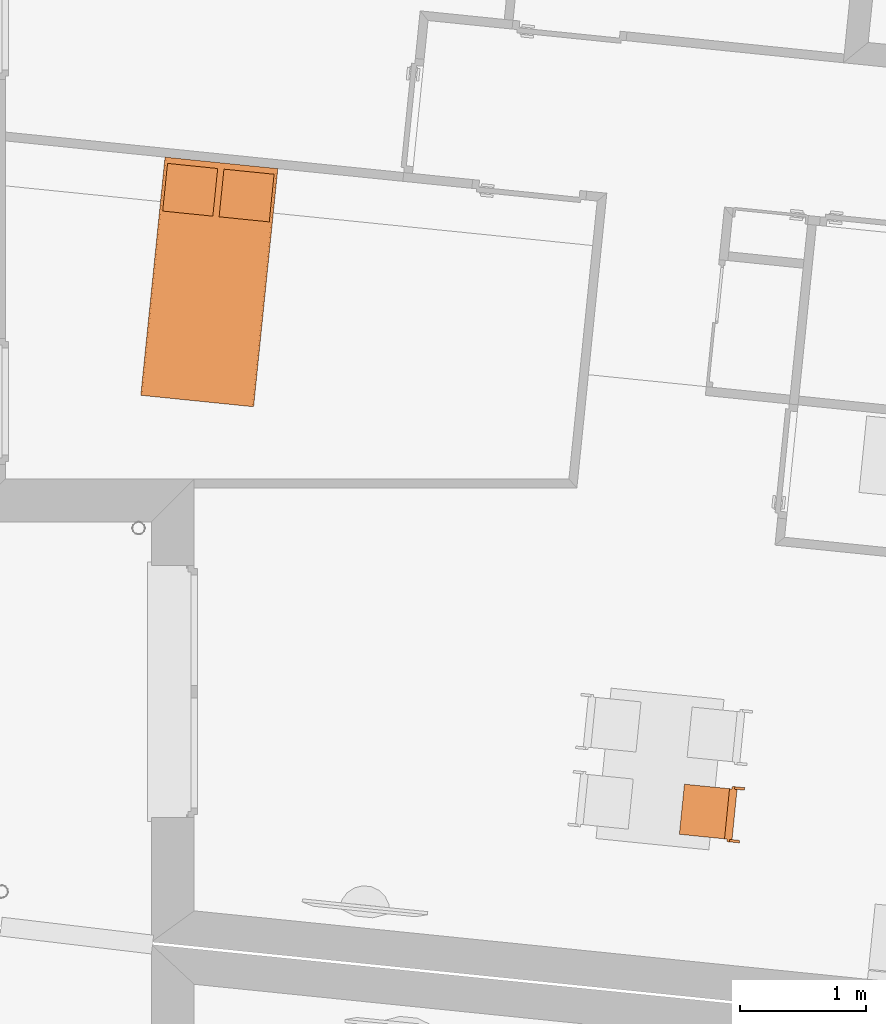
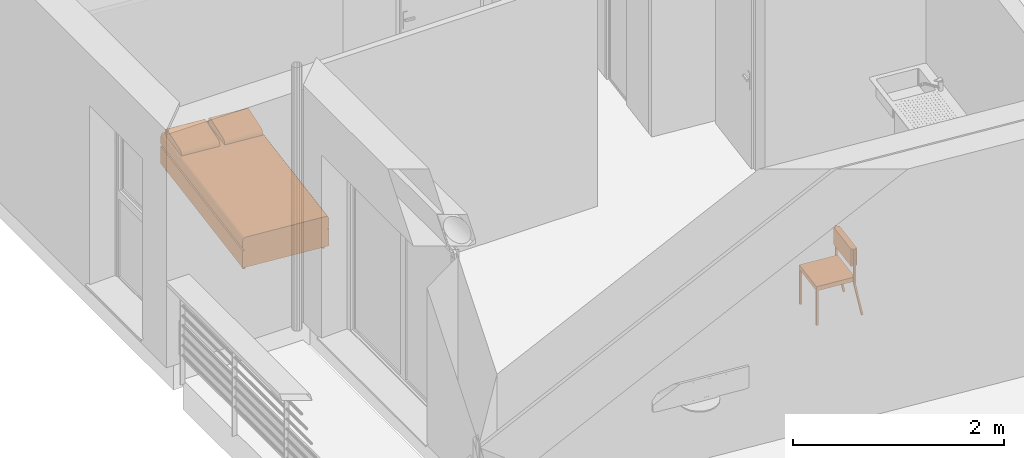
# One storey, part 159 of 171: 2 proxies.
"""IFC2X3 building model written with IfcOpenShell, lengths in millimetres."""

import ifcopenshell
import ifcopenshell.guid

model = None  # the IFC model being written
_history = None  # IfcOwnerHistory: only IFC2X3 demands one
_inside = {}  # id of a spatial element -> (the spatial element, [elements in it])
_under = {}  # id of a project, library or spatial element -> (it, [spatial elements below it])
_declared = {}  # id of a project -> (the project, [libraries it declares])
_typed = {}  # id of a type object -> (the type object, [elements of that type])
_made_of = {}  # id of a material, layer set ... -> (it, [elements and type objects made of it])


def new_model(schema):
    """Start an empty IFC model of exactly this schema.

    Asked for "IFC4X3", IfcOpenShell would pick the latest addendum, in which some entities
    have other attributes; the version numbers below select the first issue.
    IFC2X3 requires an IfcOwnerHistory on every rooted entity: one is made here for all.
    """
    global model, _history
    if schema == "IFC4X3":
        model = ifcopenshell.file(schema_version=(4, 3, 0, 0))
    else:
        model = ifcopenshell.file(schema=schema)
    _inside.clear()
    _under.clear()
    _declared.clear()
    _typed.clear()
    _made_of.clear()
    _history = None
    if model.schema == "IFC2X3":
        org = make("IfcOrganization", Name="unknown")
        user = make(
            "IfcPersonAndOrganization",
            ThePerson=make("IfcPerson", FamilyName="unknown"),
            TheOrganization=org,
        )
        app = make(
            "IfcApplication",
            ApplicationDeveloper=org,
            Version="unknown",
            ApplicationFullName="unknown",
            ApplicationIdentifier="unknown",
        )
        _history = make(
            "IfcOwnerHistory",
            OwningUser=user,
            OwningApplication=app,
            ChangeAction="ADDED",
            CreationDate=0,
        )
    return model


def make(cls, **values):
    """One entity of the class cls with the attributes given. An attribute that is None is left unset."""
    return model.create_entity(
        cls, **{name: value for name, value in values.items() if value is not None}
    )


def entity(cls, *values):
    """Any entity or typed value of the class cls, its attributes in the order of the schema. None: left unset."""
    e = model.create_entity(cls)
    for i, value in enumerate(values):
        if value is not None:
            e[i] = value
    return e


def rooted(cls, **values):
    """An entity with a GlobalId (a new one), such as an element, a storey or a relation."""
    return make(cls, GlobalId=ifcopenshell.guid.new(), OwnerHistory=_history, **values)


def si_unit(unit_type, name, prefix=None):
    """IfcSIUnit, for example si_unit("LENGTHUNIT", "METRE", prefix="MILLI")."""
    return make("IfcSIUnit", UnitType=unit_type, Prefix=prefix, Name=name)


def converted_unit(unit_type, name, factor, base, dimensions=None, offset=None):
    """IfcConversionBasedUnit, such as the inch: factor (a typed value) times the base unit."""
    return make(
        "IfcConversionBasedUnit"
        if offset is None
        else "IfcConversionBasedUnitWithOffset",
        ConversionOffset=offset,
        Dimensions=None
        if dimensions is None
        else entity("IfcDimensionalExponents", *dimensions),
        UnitType=unit_type,
        Name=name,
        ConversionFactor=make(
            "IfcMeasureWithUnit", ValueComponent=factor, UnitComponent=base
        ),
    )


def derived_unit(unit_type, elements):
    """IfcDerivedUnit: a product of units, each with its exponent."""
    return make(
        "IfcDerivedUnit",
        Elements=[
            make("IfcDerivedUnitElement", Unit=unit, Exponent=power)
            for unit, power in elements
        ],
        UnitType=unit_type,
    )


def money_unit(currency):
    """IfcMonetaryUnit."""
    return make("IfcMonetaryUnit", Currency=currency)


def assignment(units):
    """IfcUnitAssignment: the units of a project."""
    return None if units is None else make("IfcUnitAssignment", Units=units)


def point(xyz):
    """IfcCartesianPoint."""
    return None if xyz is None else make("IfcCartesianPoint", Coordinates=xyz)


def direction(xyz):
    """IfcDirection."""
    return None if xyz is None else make("IfcDirection", DirectionRatios=xyz)


def frame(location, z_axis=None, x_axis=None):
    """IfcAxis2Placement3D, a coordinate frame: its origin and axes. An axis left out is left unset."""
    return make(
        "IfcAxis2Placement3D",
        Location=point(location),
        Axis=direction(z_axis),
        RefDirection=direction(x_axis),
    )


def origin_with_axes():
    """The frame at (0, 0, 0) with the z axis (0, 0, 1) and the x axis (1, 0, 0) written out."""
    return frame((0.0, 0.0, 0.0), z_axis=(0.0, 0.0, 1.0), x_axis=(1.0, 0.0, 0.0))


def place(relative_to, where):
    """IfcLocalPlacement: puts the frame where relative to a parent placement (None: the world)."""
    return make(
        "IfcLocalPlacement", PlacementRelTo=relative_to, RelativePlacement=where
    )


def context(
    kind, dimensions, precision=None, world=None, true_north=None, identifier=None
):
    """IfcGeometricRepresentationContext, for example the 3D "Model" context."""
    return make(
        "IfcGeometricRepresentationContext",
        ContextIdentifier=identifier,
        ContextType=kind,
        CoordinateSpaceDimension=dimensions,
        Precision=precision,
        WorldCoordinateSystem=world,
        TrueNorth=true_north,
    )


def subcontext(parent, identifier, kind, view, scale=None):
    """IfcGeometricRepresentationSubContext, for example "Body" below "Model"."""
    return make(
        "IfcGeometricRepresentationSubContext",
        ContextIdentifier=identifier,
        ContextType=kind,
        ParentContext=parent,
        TargetScale=scale,
        TargetView=view,
    )


def project(units=None, contexts=None):
    """IfcProject with its units and contexts."""
    return rooted(
        "IfcProject",
        Name="project",
        RepresentationContexts=contexts,
        UnitsInContext=assignment(units),
    )


def spatial(cls, under=None, at=None, **own):
    """A site, building, storey or space (cls), placed at a placement, below another one or the project."""
    s = rooted(cls, ObjectPlacement=at, **own)
    if under is not None:
        _under.setdefault(under.id(), (under, []))[1].append(s)
    return s


def faces_of(points, faces, orient=None, outer=None):
    """IfcFace entities. A face is a list of loops; a loop is a list of indices into points, from 0.

    orient and outer hold one flag for each loop. By default every Orientation is true, the
    first loop of a face is its IfcFaceOuterBound and the others are IfcFaceBound.
    """
    made = []
    for i, loops in enumerate(faces):
        bounds = []
        for j, loop in enumerate(loops):
            is_outer = j == 0 if outer is None else outer[i][j]
            bounds.append(
                make(
                    "IfcFaceOuterBound" if is_outer else "IfcFaceBound",
                    Bound=make("IfcPolyLoop", Polygon=[points[k] for k in loop]),
                    Orientation=True if orient is None else orient[i][j],
                )
            )
        made.append(make("IfcFace", Bounds=bounds))
    return made


def open_shell(faces, orient=None, outer=None):
    """The faces of one IfcOpenShell. surface_model builds it on its shared points."""
    return ("IfcOpenShell", faces, orient, outer)


def faceted_brep(points, faces, orient=None, outer=None, voids=None):
    """IfcFacetedBrep: a solid bounded by flat faces; with voids (closed shells), ...WithVoids."""
    shared = [point(p) for p in points]
    hull = make("IfcClosedShell", CfsFaces=faces_of(shared, faces, orient, outer))
    if voids is None:
        return make("IfcFacetedBrep", Outer=hull)
    return make(
        "IfcFacetedBrepWithVoids",
        Outer=hull,
        Voids=[
            make(cls, CfsFaces=faces_of(shared, fs, o, b)) for cls, fs, o, b in voids
        ],
    )


def surface_model(cls, points, shells):
    """IfcFaceBasedSurfaceModel or IfcShellBasedSurfaceModel (cls): surfaces that need not close."""
    shared = [point(p) for p in points]
    made = [make(c, CfsFaces=faces_of(shared, fs, o, b)) for c, fs, o, b in shells]
    if cls == "IfcFaceBasedSurfaceModel":
        return make(cls, FbsmFaces=made)
    return make(cls, SbsmBoundary=made)


def shape(context_of_items, identifier, shape_type, items):
    """IfcShapeRepresentation: the items that make up one representation, for example the "Body"."""
    return make(
        "IfcShapeRepresentation",
        ContextOfItems=context_of_items,
        RepresentationIdentifier=identifier,
        RepresentationType=shape_type,
        Items=items,
    )


def source(mapping_origin, context_of_items, identifier, shape_type, items):
    """IfcRepresentationMap: a shape defined once, which mapped items show again and again."""
    return make(
        "IfcRepresentationMap",
        MappingOrigin=mapping_origin,
        MappedRepresentation=shape(context_of_items, identifier, shape_type, items),
    )


def transform(
    local_origin,
    x_axis=None,
    y_axis=None,
    z_axis=None,
    scale=None,
    scale2=None,
    scale3=None,
    uniform=True,
):
    """IfcCartesianTransformationOperator3D, or its non-uniform kind. x_axis, y_axis, z_axis: its Axis1, 2, 3."""
    if uniform:
        return make(
            "IfcCartesianTransformationOperator3D",
            Axis1=direction(x_axis),
            Axis2=direction(y_axis),
            LocalOrigin=point(local_origin),
            Scale=scale,
            Axis3=direction(z_axis),
        )
    return make(
        "IfcCartesianTransformationOperator3DnonUniform",
        Axis1=direction(x_axis),
        Axis2=direction(y_axis),
        LocalOrigin=point(local_origin),
        Scale=scale,
        Axis3=direction(z_axis),
        Scale2=scale2,
        Scale3=scale3,
    )


def mapped(mapping_source, mapping_target):
    """IfcMappedItem: shows the shape of a source again, moved by a transform."""
    return make(
        "IfcMappedItem", MappingSource=mapping_source, MappingTarget=mapping_target
    )


def made_of(thing, what):
    """Note that an element or type object is made of a material, layer set ...; save() writes the relation."""
    if what is not None:
        _made_of.setdefault(what.id(), (what, []))[1].append(thing)
    return thing


def type_object(cls, material=None, **own):
    """A type object (cls), such as IfcWallType, which elements share."""
    return made_of(rooted(cls, **own), material)


def element(
    cls,
    number,
    at=None,
    inside=None,
    cuts=None,
    type_object=None,
    material=None,
    context=None,
    identifier="Body",
    shape_type=None,
    held_by="IfcProductDefinitionShape",
    body=None,
    shapes=None,
    **own,
):
    """One element of the class cls, such as IfcWall. Its Tag is "e" and its number.

    at: its placement. inside: the storey or other place that contains it. cuts: it is an
    opening in that element (IfcRelVoidsElement). A single representation is given by context,
    identifier, shape_type and body (its items); several are given by shapes. held_by: the class
    of the entity that holds the representations. save() writes the other relations.
    """
    e = rooted(cls, Tag="e%d" % number, ObjectPlacement=at, **own)
    if body is not None:
        shapes = [shape(context, identifier, shape_type, body)]
    if shapes is not None:
        e.Representation = make(held_by, Representations=shapes)
    if inside is not None:
        _inside.setdefault(inside.id(), (inside, []))[1].append(e)
    if cuts is not None:
        rooted(
            "IfcRelVoidsElement", RelatingBuildingElement=cuts, RelatedOpeningElement=e
        )
    if type_object is not None:
        _typed.setdefault(type_object.id(), (type_object, []))[1].append(e)
    return made_of(e, material)


def aggregate(whole, parts):
    """IfcRelAggregates: a whole, such as a stair, and the parts it consists of."""
    return rooted("IfcRelAggregates", RelatingObject=whole, RelatedObjects=parts)


def save(model, path):
    """Write the relations noted so far, then the file.

    IfcRelAggregates (storeys below a building ...), IfcRelContainedInSpatialStructure (elements
    in a storey), IfcRelDefinesByType, IfcRelAssociatesMaterial and IfcRelDeclares: one each for
    every whole, place, type object, material and project.
    """
    for whole, parts in _under.values():
        aggregate(whole, parts)
    for where, things in _inside.values():
        rooted(
            "IfcRelContainedInSpatialStructure",
            RelatedElements=things,
            RelatingStructure=where,
        )
    for kind, things in _typed.values():
        rooted("IfcRelDefinesByType", RelatedObjects=things, RelatingType=kind)
    for what, things in _made_of.values():
        rooted("IfcRelAssociatesMaterial", RelatedObjects=things, RelatingMaterial=what)
    for by, libraries in _declared.values():
        rooted("IfcRelDeclares", RelatingContext=by, RelatedDefinitions=libraries)
    model.write(path)


model = new_model("IFC2X3")

# Units and contexts
model_context = context("Model", 3, precision=0.01, world=origin_with_axes(), true_north=direction((0.0, 1.0)))
body_context = subcontext(model_context, "Body", "Model", "MODEL_VIEW")
ifc_project = project(units=[si_unit("LENGTHUNIT", "METRE", prefix="MILLI"), si_unit("AREAUNIT", "SQUARE_METRE"), si_unit("VOLUMEUNIT", "CUBIC_METRE"), converted_unit("PLANEANGLEUNIT", "DEGREE", entity("IfcPlaneAngleMeasure", 0.0174532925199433), si_unit("PLANEANGLEUNIT", "RADIAN"), dimensions=[0, 0, 0, 0, 0, 0, 0]), money_unit("USD"), converted_unit("TIMEUNIT", "Year", entity("IfcTimeMeasure", 31557600.0), si_unit("TIMEUNIT", "SECOND"), dimensions=[0, 0, 1, 0, 0, 0, 0]), si_unit("MASSUNIT", "GRAM", prefix="KILO"), si_unit("THERMODYNAMICTEMPERATUREUNIT", "DEGREE_CELSIUS"), si_unit("LUMINOUSINTENSITYUNIT", "LUMEN"), si_unit("ENERGYUNIT", "JOULE", prefix="MEGA"), derived_unit("THERMALCONDUCTANCEUNIT", [(si_unit("POWERUNIT", "WATT"), 1), (si_unit("LENGTHUNIT", "METRE"), -1), (si_unit("THERMODYNAMICTEMPERATUREUNIT", "KELVIN"), -1)]), derived_unit("SPECIFICHEATCAPACITYUNIT", [(si_unit("ENERGYUNIT", "JOULE"), 1), (si_unit("MASSUNIT", "GRAM", prefix="KILO"), -1), (si_unit("THERMODYNAMICTEMPERATUREUNIT", "KELVIN"), -1)]), derived_unit("MASSDENSITYUNIT", [(si_unit("MASSUNIT", "GRAM", prefix="KILO"), 1), (si_unit("VOLUMEUNIT", "CUBIC_METRE"), -1)])], contexts=[model_context])

# Site, building, storey
site_placement = place(None, origin_with_axes())
site = spatial("IfcSite", under=ifc_project, at=site_placement, Name="Site", CompositionType="ELEMENT")
building_placement = place(site_placement, origin_with_axes())
building = spatial("IfcBuilding", under=site, at=building_placement, Name="Bâtiment", CompositionType="ELEMENT")
storey_placement = place(building_placement, frame((0.0, 0.0, 3000.0), z_axis=(0.0, 0.0, 1.0), x_axis=(1.0, 0.0, 0.0)))
storey = spatial("IfcBuildingStorey", under=building, at=storey_placement, Name="rdc", CompositionType="ELEMENT", Elevation=3000.0)

# Proxies
building_element_proxy_type = type_object("IfcBuildingElementProxyType", PredefinedType="NOTDEFINED")
shared_shape_1 = source(origin_with_axes(), body_context, "Body", "Brep", [
    faceted_brep([(-39.99999978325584, 0.0, 0.0), (-39.99999978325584, 19.99999936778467, 0.0), (-19.99999989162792, 19.99999936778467, 0.0), (-19.99999989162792, 0.0, 0.0), (-39.99999978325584, 0.0, 400.0), (-39.99999978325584, 19.99999936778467, 400.0), (-19.99999989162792, 19.99999936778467, 400.0), (-19.99999989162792, 0.0, 400.0)], [[[0, 1, 2, 3]], [[0, 4, 5, 1]], [[1, 5, 6, 2]], [[2, 6, 7, 3]], [[3, 7, 4, 0]], [[7, 6, 5, 4]]]),
    faceted_brep([(-419.9999977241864, 0.0, 0.0), (-419.9999977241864, 19.99999936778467, 0.0), (-399.9999978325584, 19.99999936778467, 0.0), (-399.9999978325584, 0.0, 0.0), (-419.9999977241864, 0.0, 400.0), (-419.9999977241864, 19.99999936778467, 400.0), (-399.9999978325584, 19.99999936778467, 400.0), (-399.9999978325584, 0.0, 400.0)], [[[0, 1, 2, 3]], [[0, 4, 5, 1]], [[1, 5, 6, 2]], [[2, 6, 7, 3]], [[3, 7, 4, 0]], [[7, 6, 5, 4]]]),
    faceted_brep([(-399.9999978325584, 0.0, 400.0000000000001), (-399.9999978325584, 19.99999936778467, 400.0000000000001), (-39.99999978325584, 19.99999936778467, 400.0000000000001), (-39.99999978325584, 0.0, 400.0000000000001), (-399.9999978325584, 0.0, 420.0000000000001), (-399.9999978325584, 19.99999936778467, 420.0000000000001), (-39.99999978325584, 19.99999936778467, 420.0000000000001), (-39.99999978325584, 0.0, 420.0000000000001)], [[[0, 1, 2, 3]], [[0, 4, 5, 1]], [[1, 5, 6, 2]], [[2, 6, 7, 3]], [[3, 7, 4, 0]], [[7, 6, 5, 4]]]),
    faceted_brep([(-39.99999978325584, 19.99999936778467, 400.0000000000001), (-39.99999978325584, 379.9999879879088, 400.0000000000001), (-19.99999989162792, 379.9999879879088, 400.0000000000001), (-19.99999989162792, 19.99999936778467, 400.0000000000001), (-39.99999978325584, 19.99999936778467, 420.0000000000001), (-39.99999978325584, 379.9999879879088, 420.0000000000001), (-19.99999989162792, 379.9999879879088, 420.0000000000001), (-19.99999989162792, 19.99999936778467, 420.0000000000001)], [[[0, 1, 2, 3]], [[0, 4, 5, 1]], [[1, 5, 6, 2]], [[2, 6, 7, 3]], [[3, 7, 4, 0]], [[7, 6, 5, 4]]]),
    faceted_brep([(-419.9999977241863, 379.9999879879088, 400.0000000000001), (-419.9999977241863, 399.9999873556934, 400.0000000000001), (-19.99999989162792, 399.9999873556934, 400.0000000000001), (-19.99999989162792, 379.9999879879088, 400.0000000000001), (-419.9999977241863, 379.9999879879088, 420.0000000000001), (-419.9999977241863, 399.9999873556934, 420.0000000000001), (-19.99999989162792, 399.9999873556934, 420.0000000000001), (-19.99999989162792, 379.9999879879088, 420.0000000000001)], [[[0, 1, 2, 3]], [[0, 4, 5, 1]], [[1, 5, 6, 2]], [[2, 6, 7, 3]], [[3, 7, 4, 0]], [[7, 6, 5, 4]]]),
    faceted_brep([(-419.9999977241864, 19.99999936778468, 400.0000000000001), (-419.9999977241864, 379.9999879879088, 400.0000000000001), (-399.9999978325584, 379.9999879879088, 400.0000000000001), (-399.9999978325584, 19.99999936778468, 400.0000000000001), (-419.9999977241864, 19.99999936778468, 420.0000000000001), (-419.9999977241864, 379.9999879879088, 420.0000000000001), (-399.9999978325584, 379.9999879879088, 420.0000000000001), (-399.9999978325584, 19.99999936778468, 420.0000000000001)], [[[0, 1, 2, 3]], [[0, 4, 5, 1]], [[1, 5, 6, 2]], [[2, 6, 7, 3]], [[3, 7, 4, 0]], [[7, 6, 5, 4]]]),
    faceted_brep([(-419.9999977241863, 0.0, 400.0), (-419.9999977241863, 399.9999873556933, 400.0), (-19.99999989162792, 399.9999873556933, 400.0), (-19.99999989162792, 0.0, 400.0), (-419.9999977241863, 0.0, 450.0), (-419.9999977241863, 399.9999873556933, 450.0), (-19.99999989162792, 399.9999873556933, 450.0), (-19.99999989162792, 0.0, 450.0)], [[[0, 1, 2, 3]], [[0, 4, 5, 1]], [[1, 5, 6, 2]], [[2, 6, 7, 3]], [[3, 7, 4, 0]], [[7, 6, 5, 4]]]),
    faceted_brep([(-19.99999989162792, 379.9999879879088, 380.0), (-19.99999989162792, 399.9999873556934, 380.0), (0.0, 399.9999873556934, 380.0), (0.0, 379.9999879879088, 380.0), (-19.99999989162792, 379.9999879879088, 780.0), (-19.99999989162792, 399.9999873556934, 780.0), (0.0, 399.9999873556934, 780.0), (0.0, 379.9999879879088, 780.0)], [[[0, 1, 2, 3]], [[0, 4, 5, 1]], [[1, 5, 6, 2]], [[2, 6, 7, 3]], [[3, 7, 4, 0]], [[7, 6, 5, 4]]]),
    faceted_brep([(-439.9999976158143, 379.9999879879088, 380.0), (-439.9999976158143, 399.9999873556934, 380.0), (-419.9999977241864, 399.9999873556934, 380.0), (-419.9999977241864, 379.9999879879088, 380.0), (-439.9999976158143, 379.9999879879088, 780.0), (-439.9999976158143, 399.9999873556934, 780.0), (-419.9999977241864, 399.9999873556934, 780.0), (-419.9999977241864, 379.9999879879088, 780.0)], [[[0, 1, 2, 3]], [[0, 4, 5, 1]], [[1, 5, 6, 2]], [[2, 6, 7, 3]], [[3, 7, 4, 0]], [[7, 6, 5, 4]]]),
    faceted_brep([(-419.9999977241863, 359.999988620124, 580.0000000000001), (-419.9999977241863, 419.9999867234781, 580.0000000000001), (-19.99999989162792, 419.9999867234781, 580.0000000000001), (-19.99999989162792, 359.999988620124, 580.0000000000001), (-419.9999977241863, 359.999988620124, 780.0), (-419.9999977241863, 419.9999867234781, 780.0), (-19.99999989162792, 419.9999867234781, 780.0), (-19.99999989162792, 359.999988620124, 780.0)], [[[0, 1, 2, 3]], [[0, 4, 5, 1]], [[1, 5, 6, 2]], [[2, 6, 7, 3]], [[3, 7, 4, 0]], [[7, 6, 5, 4]]]),
    faceted_brep([(-19.99999989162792, 459.9999854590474, 0.0), (-19.99999989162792, 479.5709559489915, 4.120326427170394), (0.0, 479.5709559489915, 4.120326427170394), (0.0, 459.9999854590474, 0.0), (-19.99999989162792, 379.997669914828, 379.999760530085), (-19.99999989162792, 399.5686404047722, 384.1200869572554), (0.0, 399.5686404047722, 384.1200869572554), (0.0, 379.997669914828, 379.999760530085)], [[[0, 1, 2, 3]], [[0, 4, 5, 1]], [[1, 5, 6, 2]], [[2, 6, 7, 3]], [[3, 7, 4, 0]], [[7, 6, 5, 4]]]),
    faceted_brep([(-439.9999976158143, 459.9999854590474, 0.0), (-439.9999976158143, 479.5709559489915, 4.120326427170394), (-419.9999977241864, 479.5709559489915, 4.120326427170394), (-419.9999977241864, 459.9999854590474, 0.0), (-439.9999976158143, 379.997669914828, 379.999760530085), (-439.9999976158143, 399.5686404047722, 384.1200869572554), (-419.9999977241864, 399.5686404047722, 384.1200869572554), (-419.9999977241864, 379.997669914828, 379.999760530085)], [[[0, 1, 2, 3]], [[0, 4, 5, 1]], [[1, 5, 6, 2]], [[2, 6, 7, 3]], [[3, 7, 4, 0]], [[7, 6, 5, 4]]]),
])
proxy_1_placement = place(storey_placement, frame((2222322.924363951, -620007.0921225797, 0.0), z_axis=(0.0, 0.0, 1.0), x_axis=(-0.1000048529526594, -0.9949869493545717, 0.0)))
element("IfcBuildingElementProxy", 1, at=proxy_1_placement, inside=storey, type_object=building_element_proxy_type, Name="Obj.-027", context=body_context, shape_type="MappedRepresentation", body=[
    mapped(shared_shape_1, transform((0.0, 0.0, 0.0))),
])
shared_shape_2 = source(origin_with_axes(), body_context, "Body", "SurfaceModel", [
    faceted_brep([(-400.0, -95.0, 0.0), (-425.0000000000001, -95.0, 0.0), (-425.0000000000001, -47.5, 0.0), (-400.0, -47.5, 0.0), (-400.0, -95.0, 50.0), (-425.0000000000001, -95.0, 50.0), (-425.0000000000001, -47.5, 50.0), (-400.0, -47.5, 50.0)], [[[0, 1, 2, 3]], [[1, 0, 4, 5]], [[2, 1, 5, 6]], [[3, 2, 6, 7]], [[0, 3, 7, 4]], [[5, 4, 7, 6]]]),
    faceted_brep([(-400.0, -1852.5, 0.0), (-425.0000000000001, -1852.5, 0.0), (-425.0000000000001, -1805.0, 0.0), (-400.0, -1805.0, 0.0), (-400.0, -1852.5, 50.0), (-425.0000000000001, -1852.5, 50.0), (-425.0000000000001, -1805.0, 50.0), (-400.0, -1805.0, 50.0)], [[[0, 1, 2, 3]], [[1, 0, 4, 5]], [[2, 1, 5, 6]], [[3, 2, 6, 7]], [[0, 3, 7, 4]], [[5, 4, 7, 6]]]),
    faceted_brep([(425.0000000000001, -1852.5, 0.0), (400.0, -1852.5, 0.0), (400.0, -1805.0, 0.0), (425.0000000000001, -1805.0, 0.0), (425.0000000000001, -1852.5, 50.0), (400.0, -1852.5, 50.0), (400.0, -1805.0, 50.0), (425.0000000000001, -1805.0, 50.0)], [[[0, 1, 2, 3]], [[1, 0, 4, 5]], [[2, 1, 5, 6]], [[3, 2, 6, 7]], [[0, 3, 7, 4]], [[5, 4, 7, 6]]]),
    faceted_brep([(425.0000000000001, -94.99999999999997, 0.0), (400.0, -94.99999999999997, 0.0), (400.0, -47.49999999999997, 0.0), (425.0000000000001, -47.49999999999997, 0.0), (425.0000000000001, -94.99999999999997, 50.0), (400.0, -94.99999999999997, 50.0), (400.0, -47.49999999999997, 50.0), (425.0000000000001, -47.49999999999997, 50.0)], [[[0, 1, 2, 3]], [[1, 0, 4, 5]], [[2, 1, 5, 6]], [[3, 2, 6, 7]], [[0, 3, 7, 4]], [[5, 4, 7, 6]]]),
    faceted_brep([(-450.0, 0.0, 50.0), (450.0, 0.0, 50.0), (450.0, -1900.0, 50.00000000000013), (-450.0, -1900.0, 50.00000000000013), (-450.0, 0.0, 250.0), (450.0, 0.0, 250.0), (450.0, -1900.0, 250.0000000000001), (-450.0, -1900.0, 250.0000000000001)], [[[0, 1, 2, 3]], [[0, 4, 5, 1]], [[1, 5, 6, 2]], [[3, 2, 6, 7]], [[4, 0, 3, 7]], [[5, 4, 7, 6]]]),
    surface_model("IfcShellBasedSurfaceModel", [(425.0000000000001, 0.0, 250.0), (429.3412044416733, 0.0, 250.7596123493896), (429.3412044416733, -1900.0, 250.7596123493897), (425.0000000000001, -1900.0, 250.0000000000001), (-425.0000000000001, 0.0, 250.0), (-429.3412044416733, 0.0, 250.7596123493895), (-433.5505035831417, 0.0, 253.0153689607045), (-437.5, 0.0, 256.698729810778), (-441.0696902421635, 0.0, 261.6977778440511), (-444.1511110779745, 0.0, 267.860619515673), (-446.650635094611, 0.0, 275.0), (-448.4923155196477, 0.0, 282.8989928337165), (-449.6201938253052, 0.0, 291.3175911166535), (-450.0, 0.0, 300.0000000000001), (-450.0000000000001, 0.0, 350.0), (-449.6201938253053, 0.0, 358.6824088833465), (-448.4923155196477, 0.0, 367.1010071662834), (-446.650635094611, 0.0, 375.0), (-444.1511110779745, 0.0, 382.139380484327), (-441.0696902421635, 0.0, 388.3022221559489), (-437.5000000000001, 0.0, 393.301270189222), (-433.5505035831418, 0.0, 396.9846310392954), (-429.3412044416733, 0.0, 399.2403876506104), (-425.0000000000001, 0.0, 400.0), (425.0, 0.0, 400.0000000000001), (429.3412044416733, 0.0, 399.2403876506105), (433.5505035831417, 0.0, 396.9846310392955), (437.5, 0.0, 393.301270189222), (441.0696902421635, 0.0, 388.3022221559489), (444.1511110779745, 0.0, 382.139380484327), (446.6506350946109, 0.0, 375.0000000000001), (448.4923155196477, 0.0, 367.1010071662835), (449.6201938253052, 0.0, 358.6824088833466), (450.0, 0.0, 350.0000000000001), (450.0, 0.0, 300.0000000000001), (449.6201938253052, 0.0, 291.3175911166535), (448.4923155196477, 0.0, 282.8989928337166), (446.650635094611, 0.0, 275.0), (444.1511110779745, 0.0, 267.8606195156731), (441.0696902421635, 0.0, 261.6977778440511), (437.5000000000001, 0.0, 256.698729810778), (433.5505035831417, 0.0, 253.0153689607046), (433.5505035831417, -1900.0, 253.0153689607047), (-425.0000000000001, -1900.0, 250.0000000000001), (437.5000000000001, -1900.0, 256.6987298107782), (441.0696902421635, -1900.0, 261.6977778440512), (444.1511110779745, -1900.0, 267.8606195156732), (446.650635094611, -1900.0, 275.0000000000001), (448.4923155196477, -1900.0, 282.8989928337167), (449.6201938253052, -1900.0, 291.3175911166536), (450.0, -1900.0, 300.0000000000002), (450.0, -1900.0, 350.0000000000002), (449.6201938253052, -1900.0, 358.6824088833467), (448.4923155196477, -1900.0, 367.1010071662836), (446.6506350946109, -1900.0, 375.0000000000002), (444.1511110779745, -1900.0, 382.1393804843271), (441.0696902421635, -1900.0, 388.302222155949), (437.5, -1900.0, 393.3012701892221), (433.5505035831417, -1900.0, 396.9846310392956), (429.3412044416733, -1900.0, 399.2403876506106), (425.0, -1900.0, 400.0000000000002), (-425.0000000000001, -1900.0, 400.0000000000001), (-429.3412044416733, -1900.0, 399.2403876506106), (-433.5505035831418, -1900.0, 396.9846310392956), (-437.5000000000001, -1900.0, 393.3012701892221), (-441.0696902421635, -1900.0, 388.302222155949), (-444.1511110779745, -1900.0, 382.1393804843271), (-446.650635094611, -1900.0, 375.0000000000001), (-448.4923155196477, -1900.0, 367.1010071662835), (-449.6201938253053, -1900.0, 358.6824088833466), (-450.0000000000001, -1900.0, 350.0000000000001), (-450.0, -1900.0, 300.0000000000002), (-449.6201938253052, -1900.0, 291.3175911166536), (-448.4923155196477, -1900.0, 282.8989928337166), (-446.650635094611, -1900.0, 275.0000000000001), (-444.1511110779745, -1900.0, 267.8606195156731), (-441.0696902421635, -1900.0, 261.6977778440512), (-437.5, -1900.0, 256.6987298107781), (-433.5505035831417, -1900.0, 253.0153689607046), (-429.3412044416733, -1900.0, 250.7596123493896)], [open_shell([[[0, 1, 2, 3]], [[4, 5, 6, 7, 8, 9, 10, 11, 12, 13, 14, 15, 16, 17, 18, 19, 20, 21, 22, 23, 24, 25, 26, 27, 28, 29, 30, 31, 32, 33, 34, 35, 36, 37, 38, 39, 40, 41, 1, 0]], [[1, 41, 42, 2]], [[43, 3, 2, 42, 44, 45, 46, 47, 48, 49, 50, 51, 52, 53, 54, 55, 56, 57, 58, 59, 60, 61, 62, 63, 64, 65, 66, 67, 68, 69, 70, 71, 72, 73, 74, 75, 76, 77, 78, 79]], [[5, 4, 43, 79]], [[6, 5, 79, 78]], [[7, 6, 78, 77]], [[8, 7, 77, 76]], [[9, 8, 76, 75]], [[10, 9, 75, 74]], [[11, 10, 74, 73]], [[12, 11, 73, 72]], [[13, 12, 72, 71]], [[14, 13, 71, 70]], [[15, 14, 70, 69]], [[16, 15, 69, 68]], [[17, 16, 68, 67]], [[18, 17, 67, 66]], [[19, 18, 66, 65]], [[20, 19, 65, 64]], [[21, 20, 64, 63]], [[22, 21, 63, 62]], [[23, 22, 62, 61]], [[24, 23, 61, 60]], [[25, 24, 60, 59]], [[26, 25, 59, 58]], [[27, 26, 58, 57]], [[28, 27, 57, 56]], [[29, 28, 56, 55]], [[30, 29, 55, 54]], [[31, 30, 54, 53]], [[32, 31, 53, 52]], [[33, 32, 52, 51]], [[34, 33, 51, 50]], [[35, 34, 50, 49]], [[36, 35, 49, 48]], [[37, 36, 48, 47]], [[38, 37, 47, 46]], [[39, 38, 46, 45]], [[40, 39, 45, 44]], [[41, 40, 44, 42]]])]),
    faceted_brep([(24.99999999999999, -47.49999999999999, 400.0), (24.99999999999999, -47.49999999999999, 443.4), (425.0, -47.50000000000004, 443.4000000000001), (425.0, -47.50000000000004, 400.0000000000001), (24.99999999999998, -427.5, 400.0), (24.99999999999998, -427.6960812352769, 408.695442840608), (24.99999999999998, -426.4675711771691, 417.2966661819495), (24.99999999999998, -423.8511300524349, 425.5469991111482), (24.99999999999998, -419.9248356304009, 433.2002417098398), (24.99999999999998, -414.8058532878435, 440.0280119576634), (24.99999999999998, -408.6469396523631, 445.826560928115), (24.99999999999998, -401.6318841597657, 450.4228529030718), (24.99999999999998, -393.9700245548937, 453.6797289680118), (24.99999999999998, -385.89, 455.5), (24.99999999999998, -100.89, 493.0000000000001), (24.99999999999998, -92.85488048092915, 493.3370808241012), (24.99999999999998, -84.88093291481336, 492.2422169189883), (24.99999999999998, -77.19681007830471, 489.7468034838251), (24.99999999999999, -70.02285403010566, 485.922396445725), (24.99999999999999, -63.56477780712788, 480.878660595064), (24.99999999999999, -58.00776660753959, 474.7602249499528), (24.99999999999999, -53.51116760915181, 467.7425355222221), (24.99999999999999, -50.20392069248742, 460.0268244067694), (24.99999999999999, -48.18086109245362, 451.834339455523), (425.0, -48.18086109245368, 451.8343394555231), (425.0, -50.20392069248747, 460.0268244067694), (425.0, -53.51116760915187, 467.7425355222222), (425.0, -58.00776660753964, 474.7602249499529), (425.0, -63.56477780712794, 480.878660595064), (425.0, -70.02285403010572, 485.922396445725), (425.0, -77.19681007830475, 489.7468034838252), (425.0, -84.88093291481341, 492.2422169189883), (425.0, -92.85488048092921, 493.3370808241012), (425.0, -100.8900000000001, 493.0000000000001), (425.0, -385.89, 455.5000000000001), (425.0, -393.9700245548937, 453.6797289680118), (425.0, -401.6318841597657, 450.4228529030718), (425.0, -408.6469396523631, 445.826560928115), (425.0, -414.8058532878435, 440.0280119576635), (425.0, -419.924835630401, 433.2002417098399), (425.0, -423.8511300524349, 425.5469991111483), (425.0, -426.4675711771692, 417.2966661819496), (425.0, -427.6960812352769, 408.6954428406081), (425.0, -427.5, 400.0000000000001)], [[[0, 1, 2, 3]], [[0, 4, 5, 6, 7, 8, 9, 10, 11, 12, 13, 14, 15, 16, 17, 18, 19, 20, 21, 22, 23, 1]], [[1, 23, 24, 2]], [[3, 2, 24, 25, 26, 27, 28, 29, 30, 31, 32, 33, 34, 35, 36, 37, 38, 39, 40, 41, 42, 43]], [[4, 0, 3, 43]], [[5, 4, 43, 42]], [[6, 5, 42, 41]], [[7, 6, 41, 40]], [[8, 7, 40, 39]], [[9, 8, 39, 38]], [[10, 9, 38, 37]], [[11, 10, 37, 36]], [[12, 11, 36, 35]], [[13, 12, 35, 34]], [[14, 13, 34, 33]], [[15, 14, 33, 32]], [[16, 15, 32, 31]], [[17, 16, 31, 30]], [[18, 17, 30, 29]], [[19, 18, 29, 28]], [[20, 19, 28, 27]], [[21, 20, 27, 26]], [[22, 21, 26, 25]], [[23, 22, 25, 24]]]),
    faceted_brep([(-425.0000000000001, -47.49999999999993, 399.9999999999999), (-425.0000000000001, -47.49999999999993, 443.4), (-25.00000000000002, -47.49999999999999, 443.4), (-25.00000000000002, -47.49999999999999, 400.0), (-425.0000000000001, -427.4999999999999, 399.9999999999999), (-425.0000000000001, -427.6960812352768, 408.6954428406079), (-425.0000000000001, -426.4675711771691, 417.2966661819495), (-425.0000000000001, -423.8511300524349, 425.5469991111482), (-425.0000000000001, -419.9248356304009, 433.2002417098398), (-425.0000000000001, -414.8058532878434, 440.0280119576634), (-425.0000000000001, -408.646939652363, 445.8265609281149), (-425.0000000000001, -401.6318841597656, 450.4228529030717), (-425.0000000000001, -393.9700245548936, 453.6797289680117), (-425.0000000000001, -385.8899999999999, 455.4999999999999), (-425.0000000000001, -100.89, 493.0), (-425.0000000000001, -92.8548804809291, 493.3370808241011), (-425.0000000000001, -84.8809329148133, 492.2422169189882), (-425.0000000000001, -77.19681007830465, 489.7468034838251), (-425.0000000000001, -70.0228540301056, 485.9223964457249), (-425.0000000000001, -63.56477780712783, 480.8786605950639), (-425.0000000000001, -58.00776660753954, 474.7602249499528), (-425.0000000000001, -53.51116760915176, 467.7425355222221), (-425.0000000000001, -50.20392069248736, 460.0268244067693), (-425.0000000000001, -48.18086109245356, 451.834339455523), (-25.00000000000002, -48.18086109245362, 451.834339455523), (-25.00000000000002, -50.20392069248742, 460.0268244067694), (-25.00000000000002, -53.51116760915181, 467.7425355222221), (-25.00000000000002, -58.00776660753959, 474.7602249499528), (-25.00000000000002, -63.56477780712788, 480.878660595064), (-25.00000000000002, -70.02285403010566, 485.922396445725), (-25.00000000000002, -77.19681007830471, 489.7468034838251), (-25.00000000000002, -84.88093291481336, 492.2422169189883), (-25.00000000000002, -92.85488048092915, 493.3370808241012), (-25.00000000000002, -100.89, 493.0000000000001), (-25.00000000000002, -385.8899999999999, 455.5), (-25.00000000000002, -393.9700245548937, 453.6797289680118), (-25.00000000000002, -401.6318841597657, 450.4228529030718), (-25.00000000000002, -408.6469396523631, 445.826560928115), (-25.00000000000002, -414.8058532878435, 440.0280119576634), (-25.00000000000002, -419.9248356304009, 433.2002417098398), (-25.00000000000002, -423.8511300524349, 425.5469991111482), (-25.00000000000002, -426.4675711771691, 417.2966661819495), (-25.00000000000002, -427.6960812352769, 408.695442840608), (-25.00000000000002, -427.4999999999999, 400.0)], [[[0, 1, 2, 3]], [[0, 4, 5, 6, 7, 8, 9, 10, 11, 12, 13, 14, 15, 16, 17, 18, 19, 20, 21, 22, 23, 1]], [[1, 23, 24, 2]], [[3, 2, 24, 25, 26, 27, 28, 29, 30, 31, 32, 33, 34, 35, 36, 37, 38, 39, 40, 41, 42, 43]], [[4, 0, 3, 43]], [[5, 4, 43, 42]], [[6, 5, 42, 41]], [[7, 6, 41, 40]], [[8, 7, 40, 39]], [[9, 8, 39, 38]], [[10, 9, 38, 37]], [[11, 10, 37, 36]], [[12, 11, 36, 35]], [[13, 12, 35, 34]], [[14, 13, 34, 33]], [[15, 14, 33, 32]], [[16, 15, 32, 31]], [[17, 16, 31, 30]], [[18, 17, 30, 29]], [[19, 18, 29, 28]], [[20, 19, 28, 27]], [[21, 20, 27, 26]], [[22, 21, 26, 25]], [[23, 22, 25, 24]]]),
])
proxy_2_placement = place(storey_placement, frame((2218689.980515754, -614657.8738531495, 0.0), z_axis=(0.0, 0.0, 1.0), x_axis=(0.9948688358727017, -0.1011731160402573, 0.0)))
element("IfcBuildingElementProxy", 2, at=proxy_2_placement, inside=storey, type_object=building_element_proxy_type, Name="Obj.-003", context=body_context, shape_type="MappedRepresentation", body=[
    mapped(shared_shape_2, transform((0.0, 0.0, 0.0))),
])

save(model, "model.ifc")
